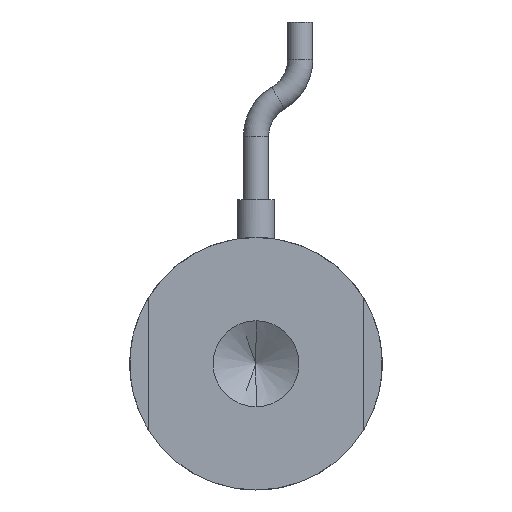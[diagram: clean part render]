
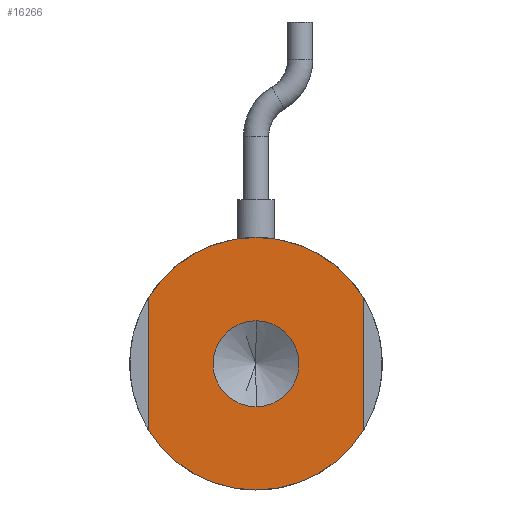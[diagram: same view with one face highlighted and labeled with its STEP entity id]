
A CAD part, front view. The second image highlights one B-rep face of the part: STEP entity #16266.
In plain terms, the highlighted planar face has unit normal (0, -1, 0).
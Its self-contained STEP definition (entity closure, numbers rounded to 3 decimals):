
#607 = EDGE_CURVE ( 'NONE', #20130, #22287, #29631, .T. ) ;
#726 = DIRECTION ( 'NONE',  ( 0., 1., 0. ) ) ;
#991 = DIRECTION ( 'NONE',  ( 0., 0., 1. ) ) ;
#1231 = CARTESIAN_POINT ( 'NONE',  ( 0., 0., 0. ) ) ;
#1694 = DIRECTION ( 'NONE',  ( 0., 0., -1. ) ) ;
#2210 = ORIENTED_EDGE ( 'NONE', *, *, #5872, .F. ) ;
#2308 = EDGE_LOOP ( 'NONE', ( #27738, #13498 ) ) ;
#2465 = ORIENTED_EDGE ( 'NONE', *, *, #27456, .F. ) ;
#4487 = EDGE_CURVE ( 'NONE', #6148, #20130, #33769, .T. ) ;
#4738 = DIRECTION ( 'NONE',  ( 0., 0., -1. ) ) ;
#5424 = ORIENTED_EDGE ( 'NONE', *, *, #607, .F. ) ;
#5789 = CARTESIAN_POINT ( 'NONE',  ( 0., 0., 0. ) ) ;
#5872 = EDGE_CURVE ( 'NONE', #33571, #6148, #34799, .T. ) ;
#6083 = FACE_BOUND ( 'NONE', #2308, .T. ) ;
#6148 = VERTEX_POINT ( 'NONE', #13884 ) ;
#6363 = VECTOR ( 'NONE', #18553, 1000. ) ;
#7055 = PLANE ( 'NONE',  #17105 ) ;
#9219 = DIRECTION ( 'NONE',  ( 0., 0., 1. ) ) ;
#10175 = CARTESIAN_POINT ( 'NONE',  ( 0., 0., 0. ) ) ;
#10475 = DIRECTION ( 'NONE',  ( 0., 0., 1. ) ) ;
#12098 = CIRCLE ( 'NONE', #28149, 10. ) ;
#12105 = AXIS2_PLACEMENT_3D ( 'NONE', #28625, #28579, #28528 ) ;
#12497 = VERTEX_POINT ( 'NONE', #42774 ) ;
#13441 = EDGE_CURVE ( 'NONE', #12497, #15355, #14260, .T. ) ;
#13498 = ORIENTED_EDGE ( 'NONE', *, *, #13441, .F. ) ;
#13632 = AXIS2_PLACEMENT_3D ( 'NONE', #5789, #29841, #9219 ) ;
#13884 = CARTESIAN_POINT ( 'NONE',  ( -8.5, 0., -5.268 ) ) ;
#14260 = CIRCLE ( 'NONE', #20723, 3.4 ) ;
#15355 = VERTEX_POINT ( 'NONE', #40997 ) ;
#16266 = ADVANCED_FACE ( 'NONE', ( #6083, #32439 ), #7055, .F. ) ;
#16632 = AXIS2_PLACEMENT_3D ( 'NONE', #42934, #22354, #1694 ) ;
#16955 = CARTESIAN_POINT ( 'NONE',  ( 0., 0., 10. ) ) ;
#17105 = AXIS2_PLACEMENT_3D ( 'NONE', #10175, #31105, #10475 ) ;
#18553 = DIRECTION ( 'NONE',  ( 0., 0., 1. ) ) ;
#18632 = EDGE_LOOP ( 'NONE', ( #22163, #2210, #37222, #30433, #2465, #5424 ) ) ;
#20130 = VERTEX_POINT ( 'NONE', #27186 ) ;
#20723 = AXIS2_PLACEMENT_3D ( 'NONE', #1231, #25352, #4738 ) ;
#20733 = EDGE_CURVE ( 'NONE', #28025, #43227, #43698, .T. ) ;
#21417 = CARTESIAN_POINT ( 'NONE',  ( 0., 0., 0. ) ) ;
#21617 = CARTESIAN_POINT ( 'NONE',  ( 8.5, 0., 5.268 ) ) ;
#21686 = DIRECTION ( 'NONE',  ( 0., 1., 0. ) ) ;
#21842 = CARTESIAN_POINT ( 'NONE',  ( -8.5, 0., 0. ) ) ;
#22163 = ORIENTED_EDGE ( 'NONE', *, *, #4487, .F. ) ;
#22287 = VERTEX_POINT ( 'NONE', #16955 ) ;
#22354 = DIRECTION ( 'NONE',  ( 0., -1., 0. ) ) ;
#24851 = DIRECTION ( 'NONE',  ( 0., 0., 1. ) ) ;
#25352 = DIRECTION ( 'NONE',  ( 0., -1., 0. ) ) ;
#25777 = CIRCLE ( 'NONE', #30761, 10. ) ;
#26506 = VECTOR ( 'NONE', #31125, 1000. ) ;
#27186 = CARTESIAN_POINT ( 'NONE',  ( -8.5, 0., 5.268 ) ) ;
#27456 = EDGE_CURVE ( 'NONE', #22287, #28025, #25777, .T. ) ;
#27738 = ORIENTED_EDGE ( 'NONE', *, *, #33508, .F. ) ;
#28025 = VERTEX_POINT ( 'NONE', #21617 ) ;
#28149 = AXIS2_PLACEMENT_3D ( 'NONE', #21417, #726, #24851 ) ;
#28528 = DIRECTION ( 'NONE',  ( 0., 0., 1. ) ) ;
#28579 = DIRECTION ( 'NONE',  ( 0., 1., 0. ) ) ;
#28625 = CARTESIAN_POINT ( 'NONE',  ( 0., 0., 0. ) ) ;
#29631 = CIRCLE ( 'NONE', #12105, 10. ) ;
#29841 = DIRECTION ( 'NONE',  ( 0., 1., 0. ) ) ;
#30433 = ORIENTED_EDGE ( 'NONE', *, *, #20733, .F. ) ;
#30761 = AXIS2_PLACEMENT_3D ( 'NONE', #42239, #21686, #991 ) ;
#30836 = CARTESIAN_POINT ( 'NONE',  ( 8.5, 0., 0. ) ) ;
#31105 = DIRECTION ( 'NONE',  ( 0., 1., 0. ) ) ;
#31125 = DIRECTION ( 'NONE',  ( 0., 0., -1. ) ) ;
#32439 = FACE_OUTER_BOUND ( 'NONE', #18632, .T. ) ;
#32849 = CARTESIAN_POINT ( 'NONE',  ( 0., 0., -10. ) ) ;
#33508 = EDGE_CURVE ( 'NONE', #15355, #12497, #40635, .T. ) ;
#33571 = VERTEX_POINT ( 'NONE', #32849 ) ;
#33755 = EDGE_CURVE ( 'NONE', #43227, #33571, #12098, .T. ) ;
#33769 = LINE ( 'NONE', #21842, #6363 ) ;
#34799 = CIRCLE ( 'NONE', #13632, 10. ) ;
#37222 = ORIENTED_EDGE ( 'NONE', *, *, #33755, .F. ) ;
#40635 = CIRCLE ( 'NONE', #16632, 3.4 ) ;
#40997 = CARTESIAN_POINT ( 'NONE',  ( 0., 0., -3.4 ) ) ;
#42239 = CARTESIAN_POINT ( 'NONE',  ( 0., 0., 0. ) ) ;
#42774 = CARTESIAN_POINT ( 'NONE',  ( 0., 0., 3.4 ) ) ;
#42934 = CARTESIAN_POINT ( 'NONE',  ( 0., 0., 0. ) ) ;
#43227 = VERTEX_POINT ( 'NONE', #44035 ) ;
#43698 = LINE ( 'NONE', #30836, #26506 ) ;
#44035 = CARTESIAN_POINT ( 'NONE',  ( 8.5, 0., -5.268 ) ) ;
